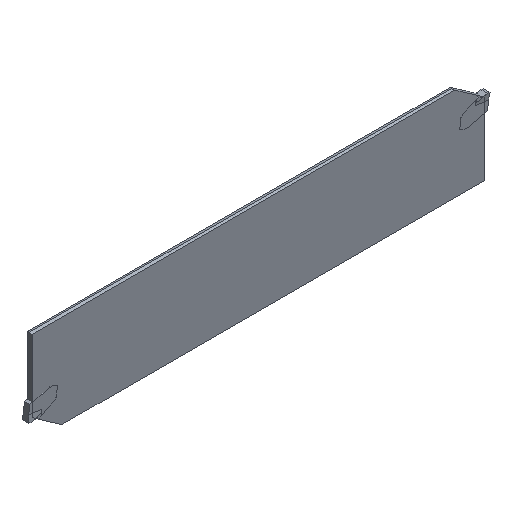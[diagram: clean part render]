
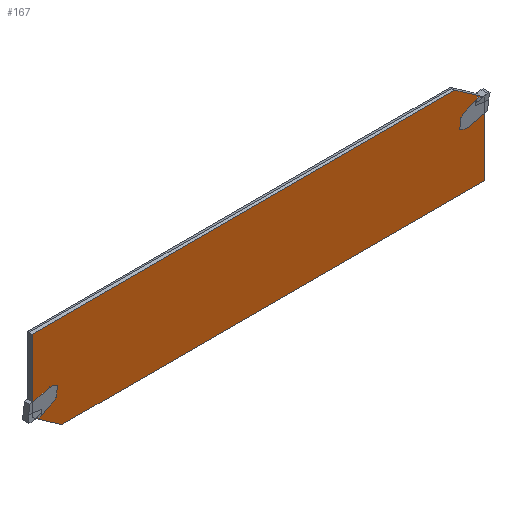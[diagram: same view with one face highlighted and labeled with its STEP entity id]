
A CAD part, isometric view. The second image highlights one B-rep face of the part: STEP entity #167.
In plain terms, the highlighted planar face has unit normal (0, -1, 0).
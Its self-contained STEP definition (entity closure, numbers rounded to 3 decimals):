
#167=ADVANCED_FACE('',(#301),#233,.F.);
#233=PLANE('',#1444);
#301=FACE_OUTER_BOUND('',#371,.T.);
#371=EDGE_LOOP('',(#609,#610,#611,#612,#613,#614));
#609=ORIENTED_EDGE('',*,*,#983,.F.);
#610=ORIENTED_EDGE('',*,*,#984,.F.);
#611=ORIENTED_EDGE('',*,*,#985,.F.);
#612=ORIENTED_EDGE('',*,*,#986,.F.);
#613=ORIENTED_EDGE('',*,*,#987,.F.);
#614=ORIENTED_EDGE('',*,*,#988,.F.);
#829=VERTEX_POINT('',#2026);
#830=VERTEX_POINT('',#2027);
#831=VERTEX_POINT('',#2029);
#832=VERTEX_POINT('',#2031);
#833=VERTEX_POINT('',#2033);
#834=VERTEX_POINT('',#2035);
#983=EDGE_CURVE('',#829,#830,#1155,.T.);
#984=EDGE_CURVE('',#831,#829,#1156,.T.);
#985=EDGE_CURVE('',#832,#831,#1157,.T.);
#986=EDGE_CURVE('',#833,#832,#1158,.T.);
#987=EDGE_CURVE('',#834,#833,#1159,.T.);
#988=EDGE_CURVE('',#830,#834,#1160,.T.);
#1155=LINE('',#2025,#1323);
#1156=LINE('',#2028,#1324);
#1157=LINE('',#2030,#1325);
#1158=LINE('',#2032,#1326);
#1159=LINE('',#2034,#1327);
#1160=LINE('',#2036,#1328);
#1323=VECTOR('',#1672,1.);
#1324=VECTOR('',#1673,1.);
#1325=VECTOR('',#1674,1.);
#1326=VECTOR('',#1675,1.);
#1327=VECTOR('',#1676,1.);
#1328=VECTOR('',#1677,1.);
#1444=AXIS2_PLACEMENT_3D('',#2037,#1678,#1679);
#1672=DIRECTION('',(-1.,0.,0.));
#1673=DIRECTION('',(0.,0.,-1.));
#1674=DIRECTION('',(0.819,0.,-0.574));
#1675=DIRECTION('',(1.,0.,0.));
#1676=DIRECTION('',(0.,0.,1.));
#1677=DIRECTION('',(-0.819,0.,0.574));
#1678=DIRECTION('',(0.,1.,0.));
#1679=DIRECTION('',(0.,0.,-1.));
#2025=CARTESIAN_POINT('',(-1.5,-0.8,-24.676));
#2026=CARTESIAN_POINT('',(-1.5,-0.8,-24.676));
#2027=CARTESIAN_POINT('',(-141.626,-0.8,-24.676));
#2028=CARTESIAN_POINT('',(-1.5,-0.8,-0.698));
#2029=CARTESIAN_POINT('',(-1.5,-0.8,-0.698));
#2030=CARTESIAN_POINT('',(-11.68,-0.8,6.43));
#2031=CARTESIAN_POINT('',(-11.374,-0.8,6.216));
#2032=CARTESIAN_POINT('',(-1.5,-0.8,6.216));
#2033=CARTESIAN_POINT('',(-151.5,-0.8,6.216));
#2034=CARTESIAN_POINT('',(-151.5,-0.8,-17.762));
#2035=CARTESIAN_POINT('',(-151.5,-0.8,-17.762));
#2036=CARTESIAN_POINT('',(-141.32,-0.8,-24.89));
#2037=CARTESIAN_POINT('',(-1.5,-0.8,-24.89));
